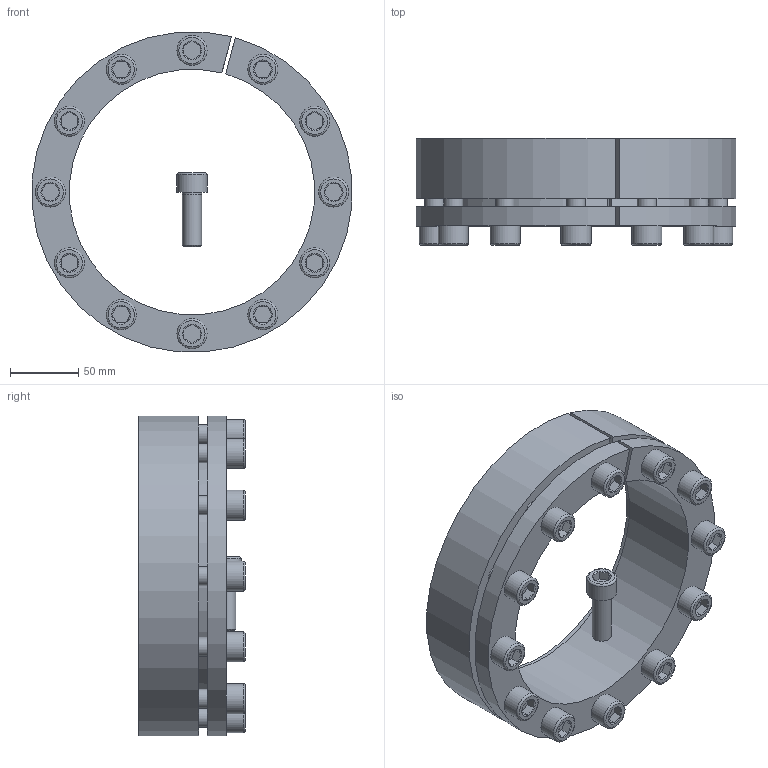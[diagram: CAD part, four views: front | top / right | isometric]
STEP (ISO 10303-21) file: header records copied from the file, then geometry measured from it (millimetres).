
FILE_DESCRIPTION( ( 'Unknown' ), '1' );
FILE_NAME( 'C:/Dokumente und Einstellungen/Sven/Desktop/homepage/cad - homepage/KBS13/KBS 13 - 180 x 235.stp', 'Unknown', ( 'Unknown' ), ( 'Unknown' ), 'XStep 1.0', 'Unknown', ' ' );
FILE_SCHEMA( ( 'automotive_design' ) );
Length unit declared in the file: millimetre
Products named in the file (3): Assem1; KBS 13 - 180 x 235; ISO EN DIN 4762 M14x40
Bounding box: 234.24 x 78 x 234.24 mm (x, y, z)
Volume: 2031713.9 mm3; surface area: 396046.4 mm2
Topology: 15 solids, 15 shells, 397 faces, 809 edges, 494 vertices
Faces by surface type: plane 170, cylinder 106, cone 95, torus 26
Full cylindrical faces by diameter (mm): 12 x13, 14 x74, 22 x13
Entity records: 2170 total; most frequent: CARTESIAN_POINT 349, DIRECTION 328, ORIENTED_EDGE 226, AXIS2_PLACEMENT_3D 150, EDGE_LOOP 144, EDGE_CURVE 113, FACE_OUTER_BOUND 91, VERTEX_POINT 91
